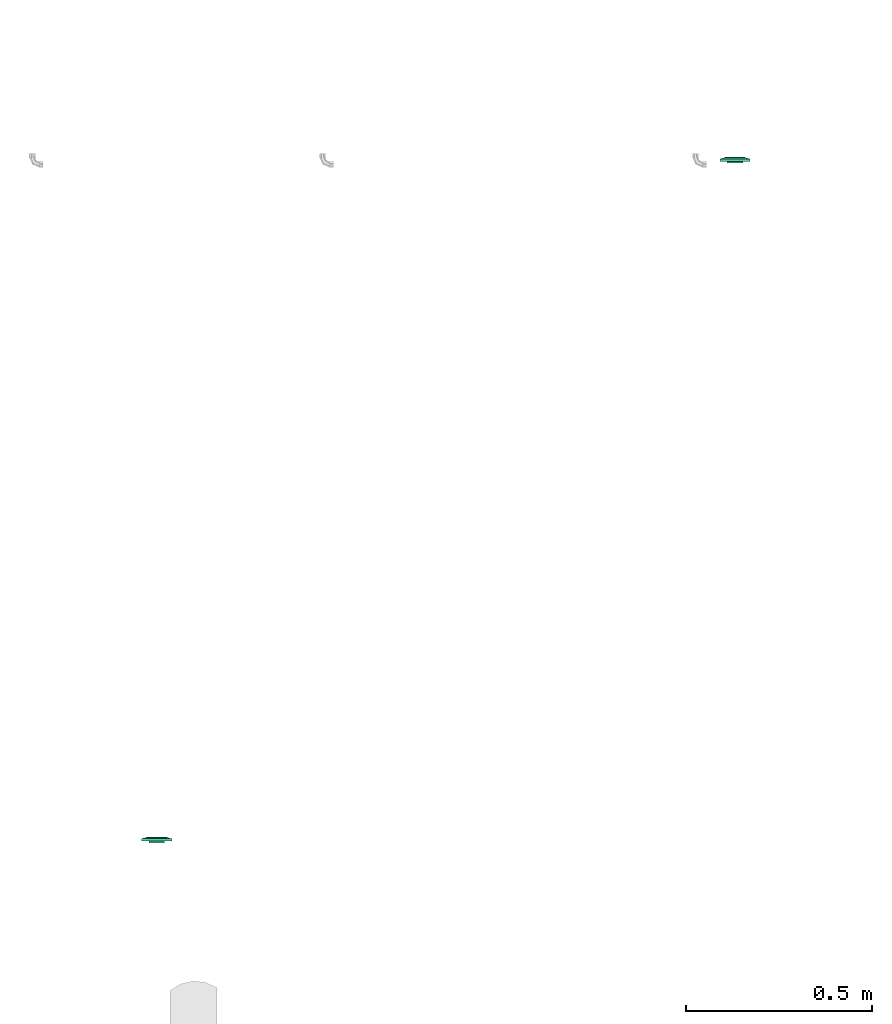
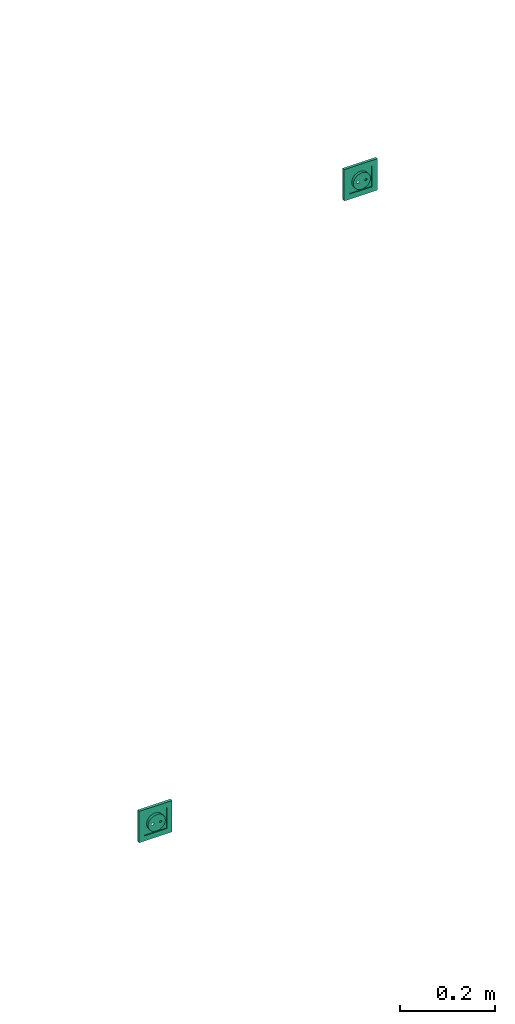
# One storey, part 102 of 153: 2 flow terminals.
"""IFC2X3 building model written with IfcOpenShell, lengths in metres."""

from ifc_helpers import new_model, entity, si_unit, converted_unit, derived_unit, direction, frame, origin, place, context, subcontext, project, spatial, face_set, surface_model, source, transform, mapped, type_object, type_shapes, element, save


model = new_model("IFC2X3")

# Units and contexts
model_context = context("Model", 3, precision=1e-05, world=origin(), true_north=direction((6.12303176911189e-17, 1.0)))
body_context = subcontext(model_context, "Body", "Model", "MODEL_VIEW")
ifc_project = project(units=[si_unit("LENGTHUNIT", "METRE"), si_unit("AREAUNIT", "SQUARE_METRE"), si_unit("VOLUMEUNIT", "CUBIC_METRE"), converted_unit("PLANEANGLEUNIT", "DEGREE", entity("IfcRatioMeasure", 0.0174532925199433), si_unit("PLANEANGLEUNIT", "RADIAN"), dimensions=[0, 0, 0, 0, 0, 0, 0]), si_unit("MASSUNIT", "GRAM", prefix="KILO"), derived_unit("MASSDENSITYUNIT", [(si_unit("MASSUNIT", "GRAM", prefix="KILO"), 1), (si_unit("LENGTHUNIT", "METRE"), -3)]), si_unit("TIMEUNIT", "SECOND"), si_unit("FREQUENCYUNIT", "HERTZ"), si_unit("THERMODYNAMICTEMPERATUREUNIT", "DEGREE_CELSIUS"), derived_unit("THERMALTRANSMITTANCEUNIT", [(si_unit("MASSUNIT", "GRAM", prefix="KILO"), 1), (si_unit("THERMODYNAMICTEMPERATUREUNIT", "KELVIN"), -1), (si_unit("TIMEUNIT", "SECOND"), -3)]), derived_unit("VOLUMETRICFLOWRATEUNIT", [(si_unit("LENGTHUNIT", "METRE"), 3), (si_unit("TIMEUNIT", "SECOND"), -1)]), si_unit("ELECTRICCURRENTUNIT", "AMPERE"), si_unit("ELECTRICVOLTAGEUNIT", "VOLT"), si_unit("POWERUNIT", "WATT"), si_unit("FORCEUNIT", "NEWTON"), si_unit("ILLUMINANCEUNIT", "LUX"), si_unit("LUMINOUSFLUXUNIT", "LUMEN"), si_unit("LUMINOUSINTENSITYUNIT", "CANDELA"), derived_unit("USERDEFINED", [(si_unit("MASSUNIT", "GRAM", prefix="KILO"), -1), (si_unit("LENGTHUNIT", "METRE"), -2), (si_unit("TIMEUNIT", "SECOND"), 3), (si_unit("LUMINOUSFLUXUNIT", "LUMEN"), 1)]), derived_unit("LINEARVELOCITYUNIT", [(si_unit("LENGTHUNIT", "METRE"), 1), (si_unit("TIMEUNIT", "SECOND"), -1)]), si_unit("PRESSUREUNIT", "PASCAL"), derived_unit("USERDEFINED", [(si_unit("LENGTHUNIT", "METRE"), -2), (si_unit("MASSUNIT", "GRAM", prefix="KILO"), 1), (si_unit("TIMEUNIT", "SECOND"), -2)])], contexts=[model_context])

# Site, building, storey
site_placement = place(None, origin())
site = spatial("IfcSite", under=ifc_project, at=site_placement, Name="Default", CompositionType="ELEMENT")
building_placement = place(site_placement, origin())
building = spatial("IfcBuilding", under=site, at=building_placement, CompositionType="ELEMENT")
storey_placement = place(building_placement, frame((0.0, 0.0, -4.62)))
storey = spatial("IfcBuildingStorey", under=building, at=storey_placement, Name="S02", CompositionType="ELEMENT", Elevation=-4.62)

# Flow terminals
light_fixture_type = type_object("IfcLightFixtureType", Name="Attente", PredefinedType="NOTDEFINED")
shared_shape = source(origin(), body_context, "Body", "SurfaceModel", [
    surface_model("IfcFaceBasedSurfaceModel", [(0.00225000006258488, 0.00949633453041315, 0.0127499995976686), (0.0, 0.00949633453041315, 0.0104999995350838), (0.0, 0.0101656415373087, 0.0115376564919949), (0.0, 0.0101656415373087, 0.0139623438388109), (0.0, 0.00984531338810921, 0.0144589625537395), (0.0, 0.0102778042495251, 0.0121178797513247), (0.0, 0.0102778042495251, 0.0133821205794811), (0.0, 0.010399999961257, 0.0127499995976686), (0.0, 0.00949633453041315, 0.0149999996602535), (-0.00225000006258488, 0.00949633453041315, 0.0127499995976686), (0.0, 0.00984531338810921, 0.0110410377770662), (0.0, 0.00949633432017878, 0.0127499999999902), (-0.0022499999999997, 0.0094963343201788, 0.0127499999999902), (-0.00217333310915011, 0.00949633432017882, 0.0121676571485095), (-0.0019485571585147, 0.00949633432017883, 0.0116249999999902), (-0.00159099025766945, 0.00949633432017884, 0.0111590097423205), (-0.00112499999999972, 0.00949633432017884, 0.0108014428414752), (-0.000582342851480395, 0.00949633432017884, 0.0105766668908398), (0.0, 0.00949633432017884, 0.0104999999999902), (0.000582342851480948, 0.00949633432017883, 0.0105766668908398), (0.00112500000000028, 0.00949633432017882, 0.0108014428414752), (0.00159099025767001, 0.00949633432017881, 0.0111590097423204), (0.00194855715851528, 0.00949633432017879, 0.0116249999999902), (0.0021733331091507, 0.00949633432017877, 0.0121676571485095), (0.0022500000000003, 0.00949633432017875, 0.0127499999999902), (0.00217333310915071, 0.00949633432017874, 0.0133323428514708), (0.0019485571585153, 0.00949633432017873, 0.0138749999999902), (0.00159099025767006, 0.00949633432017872, 0.0143409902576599), (0.00112500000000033, 0.00949633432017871, 0.0146985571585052), (0.000582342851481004, 0.00949633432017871, 0.0149233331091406), (0.0, 0.00949633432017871, 0.0149999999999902), (-0.000582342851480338, 0.00949633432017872, 0.0149233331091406), (-0.00112499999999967, 0.00949633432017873, 0.0146985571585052), (-0.00159099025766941, 0.00949633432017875, 0.0143409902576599), (-0.00194855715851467, 0.00949633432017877, 0.0138749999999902), (-0.00217333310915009, 0.00949633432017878, 0.0133323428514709), (-0.00224999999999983, -0.00360000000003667, 0.0127499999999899), (-0.00217333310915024, -0.00360000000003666, 0.0121676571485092), (-0.00194855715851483, -0.00360000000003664, 0.0116249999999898), (-0.00159099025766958, -0.00360000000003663, 0.0111590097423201), (-0.00112499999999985, -0.00360000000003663, 0.0108014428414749), (-0.000582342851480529, -0.00360000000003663, 0.0105766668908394), (0.0, -0.00360000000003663, 0.0104999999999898), (0.000582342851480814, -0.00360000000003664, 0.0105766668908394), (0.00112500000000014, -0.00360000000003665, 0.0108014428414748), (0.00159099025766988, -0.00360000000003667, 0.0111590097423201), (0.00194855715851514, -0.00360000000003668, 0.0116249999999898), (0.00217333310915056, -0.0036000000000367, 0.0121676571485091), (0.00225000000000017, -0.00360000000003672, 0.0127499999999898), (0.00217333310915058, -0.00360000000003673, 0.0133323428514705), (0.00194855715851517, -0.00360000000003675, 0.0138749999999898), (0.00159099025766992, -0.00360000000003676, 0.0143409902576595), (0.00112500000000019, -0.00360000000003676, 0.0146985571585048), (0.00058234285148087, -0.00360000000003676, 0.0149233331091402), (0.0, -0.00360000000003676, 0.0149999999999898), (-0.000582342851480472, -0.00360000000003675, 0.0149233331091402), (-0.0011249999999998, -0.00360000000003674, 0.0146985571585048), (-0.00159099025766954, -0.00360000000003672, 0.0143409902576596), (-0.0019485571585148, -0.00360000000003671, 0.0138749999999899), (-0.00217333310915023, -0.00360000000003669, 0.0133323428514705), (-0.0270000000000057, 0.0113999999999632, 0.0269999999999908), (0.0269999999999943, 0.0113999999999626, 0.0269999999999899), (0.0269999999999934, 0.0113999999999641, -0.0270000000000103), (-0.0270000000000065, 0.0113999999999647, -0.0270000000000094), (0.0199999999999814, 0.0113999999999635, 0.0), (0.0193185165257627, 0.0113999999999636, -0.00517638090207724), (0.0173205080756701, 0.0113999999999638, -0.0100000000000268), (0.0141421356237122, 0.0113999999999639, -0.0141421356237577), (0.00999999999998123, 0.011399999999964, -0.0173205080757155), (0.00517638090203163, 0.0113999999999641, -0.019318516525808), (0.0, 0.0113999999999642, -0.0200000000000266), (-0.00517638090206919, 0.0113999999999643, -0.0193185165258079), (-0.0100000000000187, 0.0113999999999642, -0.0173205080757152), (-0.0141421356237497, 0.0113999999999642, -0.0141421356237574), (-0.0173205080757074, 0.0113999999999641, -0.0100000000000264), (-0.0193185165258, 0.011399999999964, -0.0051763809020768), (-0.0200000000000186, 0.0113999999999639, 0.0), (-0.0193185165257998, 0.0113999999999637, 0.00517638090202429), (-0.0173205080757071, 0.0113999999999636, 0.00999999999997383), (-0.0141421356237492, 0.0113999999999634, 0.0141421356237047), (-0.0100000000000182, 0.0113999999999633, 0.0173205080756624), (-0.00517638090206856, 0.0113999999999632, 0.0193185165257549), (0.0, 0.0113999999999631, 0.0199999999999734), (0.00517638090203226, 0.0113999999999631, 0.0193185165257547), (0.0099999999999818, 0.0113999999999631, 0.017320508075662), (0.0141421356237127, 0.0113999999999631, 0.0141421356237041), (0.0173205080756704, 0.0113999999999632, 0.00999999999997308), (0.0193185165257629, 0.0113999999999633, 0.00517638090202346), (-0.0270000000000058, 0.00199999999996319, 0.0269999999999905), (-0.0270000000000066, 0.00199999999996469, -0.0270000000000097), (0.0269999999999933, 0.00199999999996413, -0.0270000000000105), (0.0269999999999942, 0.00199999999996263, 0.0269999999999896), (-0.0210000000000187, 0.00199999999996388, 0.0), (-0.0202844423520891, 0.00199999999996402, -0.00543519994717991), (-0.0181865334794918, 0.00199999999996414, -0.0105000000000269), (-0.0148492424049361, 0.00199999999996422, -0.0148492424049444), (-0.0105000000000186, 0.00199999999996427, -0.0181865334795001), (-0.00543519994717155, 0.00199999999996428, -0.0202844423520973), (0.0, 0.00199999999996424, -0.0210000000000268), (0.00543519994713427, 0.00199999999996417, -0.0202844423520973), (0.0104999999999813, 0.00199999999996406, -0.0181865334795), (0.0148492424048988, 0.00199999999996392, -0.0148492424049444), (0.0181865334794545, 0.00199999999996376, -0.0105000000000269), (0.0202844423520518, 0.0019999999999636, -0.00543519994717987), (0.0209999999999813, 0.00199999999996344, 0.0), (0.0202844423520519, 0.0019999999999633, 0.0054351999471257), (0.0181865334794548, 0.00199999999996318, 0.0104999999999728), (0.0148492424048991, 0.00199999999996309, 0.0148492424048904), (0.0104999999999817, 0.00199999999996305, 0.0181865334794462), (0.00543519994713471, 0.00199999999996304, 0.0202844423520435), (0.0, 0.00199999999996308, 0.0209999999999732), (-0.00543519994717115, 0.00199999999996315, 0.0202844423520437), (-0.0105000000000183, 0.00199999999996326, 0.0181865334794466), (-0.0148492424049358, 0.0019999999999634, 0.014849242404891), (-0.0181865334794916, 0.00199999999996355, 0.0104999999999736), (-0.020284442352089, 0.00199999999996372, 0.00543519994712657), (-0.0200000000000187, -0.00360000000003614, 0.0), (-0.0193185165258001, -0.003600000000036, -0.00517638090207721), (-0.0173205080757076, -0.00360000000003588, -0.0100000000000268), (-0.0141421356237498, -0.0036000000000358, -0.0141421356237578), (-0.0100000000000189, -0.00360000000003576, -0.0173205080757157), (-0.00517638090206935, -0.00360000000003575, -0.0193185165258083), (0.0, -0.00360000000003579, -0.020000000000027), (0.00517638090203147, -0.00360000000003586, -0.0193185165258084), (0.00999999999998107, -0.00360000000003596, -0.0173205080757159), (0.0141421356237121, -0.00360000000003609, -0.0141421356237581), (0.0173205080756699, -0.00360000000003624, -0.0100000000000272), (0.0193185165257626, -0.0036000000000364, -0.00517638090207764), (0.0199999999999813, -0.00360000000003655, 0.0), (0.0193185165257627, -0.00360000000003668, 0.00517638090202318), (0.0173205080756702, -0.0036000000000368, 0.00999999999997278), (0.0141421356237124, -0.00360000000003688, 0.0141421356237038), (0.00999999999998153, -0.00360000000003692, 0.0173205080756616), (0.00517638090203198, -0.00360000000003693, 0.0193185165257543), (0.0, -0.0036000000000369, 0.019999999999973), (-0.00517638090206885, -0.00360000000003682, 0.0193185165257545), (-0.0100000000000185, -0.00360000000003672, 0.0173205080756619), (-0.0141421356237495, -0.00360000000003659, 0.0141421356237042), (-0.0173205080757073, -0.00360000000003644, 0.00999999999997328), (-0.0193185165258, -0.00360000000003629, 0.00517638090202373), (0.0123499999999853, -0.00360000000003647, 0.0), (0.0122562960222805, -0.00360000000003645, -0.000711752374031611), (0.0119815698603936, -0.00360000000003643, -0.00137499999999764), (0.0115445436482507, -0.00360000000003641, -0.00194454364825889), (0.0109749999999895, -0.00360000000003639, -0.00238156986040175), (0.0103117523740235, -0.00360000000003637, -0.00265629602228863), (0.00959999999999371, -0.00360000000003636, -0.00274999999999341), (0.00888824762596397, -0.00360000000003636, -0.00265629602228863), (0.00822499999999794, -0.00360000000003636, -0.00238156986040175), (0.00765545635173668, -0.00360000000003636, -0.00194454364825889), (0.00721843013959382, -0.00360000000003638, -0.00137499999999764), (0.00694370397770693, -0.00360000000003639, -0.000711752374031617), (0.00685000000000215, -0.00360000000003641, 0.0), (0.00694370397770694, -0.00360000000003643, 0.000711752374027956), (0.00721843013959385, -0.00360000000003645, 0.00137499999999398), (0.00765545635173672, -0.00360000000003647, 0.00194454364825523), (0.00822499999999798, -0.00360000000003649, 0.00238156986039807), (0.00888824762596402, -0.00360000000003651, 0.00265629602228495), (0.00959999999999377, -0.00360000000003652, 0.0027499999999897), (0.0103117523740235, -0.00360000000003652, 0.00265629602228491), (0.0109749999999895, -0.00360000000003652, 0.00238156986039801), (0.0115445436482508, -0.00360000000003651, 0.00194454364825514), (0.0119815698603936, -0.0036000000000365, 0.00137499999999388), (0.0122562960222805, -0.00360000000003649, 0.000711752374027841), (-0.00685000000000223, -0.00360000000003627, 0.0), (-0.00694370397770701, -0.00360000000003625, -0.000711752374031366), (-0.0072184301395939, -0.00360000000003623, -0.00137499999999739), (-0.00765545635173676, -0.00360000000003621, -0.00194454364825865), (-0.00822499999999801, -0.00360000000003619, -0.0023815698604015), (-0.00888824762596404, -0.00360000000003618, -0.00265629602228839), (-0.00959999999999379, -0.00360000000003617, -0.00274999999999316), (-0.0103117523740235, -0.00360000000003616, -0.00265629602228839), (-0.0109749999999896, -0.00360000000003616, -0.00238156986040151), (-0.0115445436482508, -0.00360000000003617, -0.00194454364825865), (-0.0119815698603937, -0.00360000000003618, -0.0013749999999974), (-0.0122562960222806, -0.0036000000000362, -0.000711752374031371), (-0.0123499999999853, -0.00360000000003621, 0.0), (-0.0122562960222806, -0.00360000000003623, 0.000711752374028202), (-0.0119815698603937, -0.00360000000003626, 0.00137499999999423), (-0.0115445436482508, -0.00360000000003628, 0.00194454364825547), (-0.0109749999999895, -0.00360000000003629, 0.00238156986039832), (-0.0103117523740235, -0.00360000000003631, 0.00265629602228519), (-0.00959999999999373, -0.00360000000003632, 0.00274999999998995), (-0.00888824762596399, -0.00360000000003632, 0.00265629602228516), (-0.00822499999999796, -0.00360000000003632, 0.00238156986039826), (-0.00765545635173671, -0.00360000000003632, 0.00194454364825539), (-0.00721843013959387, -0.0036000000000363, 0.00137499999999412), (-0.00694370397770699, -0.00360000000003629, 0.000711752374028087), (-0.0210000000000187, -0.00460000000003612, 0.0), (-0.0202844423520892, -0.00460000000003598, -0.00543519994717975), (-0.018186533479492, -0.00460000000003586, -0.0105000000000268), (-0.0148492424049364, -0.00460000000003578, -0.0148492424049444), (-0.0105000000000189, -0.00460000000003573, -0.0181865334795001), (-0.00543519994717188, -0.00460000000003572, -0.0202844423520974), (0.0, -0.00460000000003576, -0.021000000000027), (0.00543519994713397, -0.00460000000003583, -0.0202844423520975), (0.0104999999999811, -0.00460000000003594, -0.0181865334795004), (0.0148492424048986, -0.00460000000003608, -0.0148492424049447), (0.0181865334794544, -0.00460000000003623, -0.0105000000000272), (0.0202844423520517, -0.0046000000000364, -0.0054351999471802), (0.0209999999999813, -0.00460000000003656, 0.0), (0.0202844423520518, -0.0046000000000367, 0.00543519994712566), (0.0181865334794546, -0.00460000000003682, 0.0104999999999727), (0.014849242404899, -0.00460000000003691, 0.0148492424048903), (0.0104999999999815, -0.00460000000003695, 0.0181865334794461), (0.0054351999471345, -0.00460000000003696, 0.0202844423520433), (0.0, -0.00460000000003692, 0.020999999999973), (-0.00543519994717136, -0.00460000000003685, 0.0202844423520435), (-0.0105000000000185, -0.00460000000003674, 0.0181865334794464), (-0.014849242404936, -0.0046000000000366, 0.0148492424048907), (-0.0181865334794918, -0.00460000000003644, 0.0104999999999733), (-0.0202844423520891, -0.00460000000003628, 0.00543519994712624), (0.00685000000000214, -0.00460000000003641, 0.0), (0.00694370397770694, -0.00460000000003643, 0.000711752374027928), (0.00721843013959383, -0.00460000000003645, 0.00137499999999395), (0.0076554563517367, -0.00460000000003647, 0.0019445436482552), (0.00822499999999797, -0.00460000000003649, 0.00238156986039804), (0.00888824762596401, -0.0046000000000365, 0.00265629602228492), (0.00959999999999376, -0.00460000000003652, 0.00274999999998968), (0.0103117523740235, -0.00460000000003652, 0.00265629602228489), (0.0109749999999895, -0.00460000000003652, 0.00238156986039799), (0.0115445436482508, -0.00460000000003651, 0.00194454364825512), (0.0119815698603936, -0.0046000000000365, 0.00137499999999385), (0.0122562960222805, -0.00460000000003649, 0.000711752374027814), (0.0123499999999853, -0.00460000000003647, 0.0), (0.0122562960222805, -0.00460000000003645, -0.00071175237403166), (0.0119815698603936, -0.00460000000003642, -0.00137499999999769), (0.0115445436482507, -0.0046000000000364, -0.00194454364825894), (0.0109749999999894, -0.00460000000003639, -0.00238156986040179), (0.0103117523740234, -0.00460000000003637, -0.00265629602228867), (0.00959999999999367, -0.00460000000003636, -0.00274999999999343), (0.00888824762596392, -0.00460000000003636, -0.00265629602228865), (0.00822499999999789, -0.00460000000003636, -0.00238156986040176), (0.00765545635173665, -0.00460000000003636, -0.00194454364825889), (0.00721843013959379, -0.00460000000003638, -0.00137499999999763), (0.00694370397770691, -0.00460000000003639, -0.0007117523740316), (-0.0123499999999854, -0.00460000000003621, 0.0), (-0.0122562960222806, -0.00460000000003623, 0.000711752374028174), (-0.0119815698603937, -0.00460000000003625, 0.0013749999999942), (-0.0115445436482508, -0.00460000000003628, 0.00194454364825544), (-0.0109749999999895, -0.00460000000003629, 0.00238156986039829), (-0.0103117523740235, -0.00460000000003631, 0.00265629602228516), (-0.00959999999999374, -0.00460000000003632, 0.00274999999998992), (-0.008888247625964, -0.00460000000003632, 0.00265629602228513), (-0.00822499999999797, -0.00460000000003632, 0.00238156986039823), (-0.00765545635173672, -0.00460000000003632, 0.00194454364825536), (-0.00721843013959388, -0.0046000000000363, 0.0013749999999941), (-0.006943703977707, -0.00460000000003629, 0.000711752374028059), (-0.00685000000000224, -0.00460000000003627, 0.0), (-0.00694370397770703, -0.00460000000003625, -0.000711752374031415), (-0.00721843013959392, -0.00460000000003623, -0.00137499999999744), (-0.00765545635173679, -0.00460000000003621, -0.00194454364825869), (-0.00822499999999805, -0.00460000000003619, -0.00238156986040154), (-0.00888824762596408, -0.00460000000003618, -0.00265629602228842), (-0.00959999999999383, -0.00460000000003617, -0.00274999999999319), (-0.0103117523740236, -0.00460000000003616, -0.00265629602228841), (-0.0109749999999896, -0.00460000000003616, -0.00238156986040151), (-0.0115445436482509, -0.00460000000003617, -0.00194454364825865), (-0.0119815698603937, -0.00460000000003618, -0.00137499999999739), (-0.0122562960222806, -0.00460000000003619, -0.000711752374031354), (-0.0403499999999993, 0.00659999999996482, 0.0403499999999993), (-0.0403500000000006, 0.00659999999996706, -0.0403500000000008), (0.0403499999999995, 0.00659999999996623, -0.0403500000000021), (0.0403500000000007, 0.00659999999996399, 0.040349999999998), (-0.0269999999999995, 0.00659999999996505, 0.026999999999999), (0.0270000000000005, 0.0065999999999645, 0.0269999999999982), (0.0269999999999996, 0.006599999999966, -0.0270000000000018), (-0.0270000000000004, 0.00659999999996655, -0.027000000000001), (-0.0269999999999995, 0.0103999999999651, 0.0269999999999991), (0.0270000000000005, 0.0103999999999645, 0.0269999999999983), (0.0269999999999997, 0.010399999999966, -0.0270000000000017), (-0.0270000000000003, 0.0103999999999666, -0.0270000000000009), (-0.0403499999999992, 0.00659999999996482, 0.0403499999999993), (-0.0403500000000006, 0.00659999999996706, -0.0403500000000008), (0.0403499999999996, 0.00659999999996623, -0.0403500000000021), (0.0403500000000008, 0.00659999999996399, 0.040349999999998), (0.0270000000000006, 0.0065999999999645, 0.0269999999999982), (0.0269999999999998, 0.006599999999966, -0.0270000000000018), (-0.0270000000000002, 0.00659999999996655, -0.027000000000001), (-0.0269999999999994, 0.00659999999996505, 0.026999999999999), (-0.0403499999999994, 0.0, 0.0403499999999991), (-0.0403500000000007, 0.0, -0.040350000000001), (0.0403499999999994, 0.0, -0.0403500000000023), (0.0403500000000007, 0.0, 0.0403499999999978), (-0.0269999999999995, 0.0, 0.0269999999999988), (0.0270000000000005, 0.0, 0.026999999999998), (0.0269999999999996, 0.0, -0.027000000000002), (-0.0270000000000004, 0.0, -0.0270000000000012)], [face_set([[[0, 1, 2]], [[3, 4, 2, 5]], [[6, 3, 5, 7]], [[2, 4, 0]], [[4, 8, 0]], [[3, 9, 8]], [[1, 9, 10]], [[2, 3, 6, 7]], [[3, 10, 9]], [[2, 10, 3]], [[11, 1, 0, 8]], [[11, 8, 9, 1]]]), face_set([[[12, 13, 14, 15, 16, 17, 18, 19, 20, 21, 22, 23, 24, 25, 26, 27, 28, 29, 30, 31, 32, 33, 34, 35]], [[36, 37, 38, 39, 40, 41, 42, 43, 44, 45, 46, 47, 48, 49, 50, 51, 52, 53, 54, 55, 56, 57, 58, 59]], [[48, 47, 23, 24]], [[47, 46, 22, 23]], [[45, 44, 20, 21]], [[46, 45, 21, 22]], [[44, 43, 19, 20]], [[18, 19, 43, 42]], [[42, 41, 17, 18]], [[41, 40, 16, 17]], [[39, 38, 14, 15]], [[40, 39, 15, 16]], [[38, 37, 13, 14]], [[12, 13, 37, 36]], [[36, 59, 35, 12]], [[59, 58, 34, 35]], [[57, 56, 32, 33]], [[58, 57, 33, 34]], [[56, 55, 31, 32]], [[30, 31, 55, 54]], [[54, 53, 29, 30]], [[53, 52, 28, 29]], [[51, 50, 26, 27]], [[52, 51, 27, 28]], [[50, 49, 25, 26]], [[24, 25, 49, 48]]]), face_set([[[60, 61, 62, 63], [64, 65, 66, 67, 68, 69, 70, 71, 72, 73, 74, 75, 76, 77, 78, 79, 80, 81, 82, 83, 84, 85, 86, 87]], [[88, 89, 90, 91], [92, 93, 94, 95, 96, 97, 98, 99, 100, 101, 102, 103, 104, 105, 106, 107, 108, 109, 110, 111, 112, 113, 114, 115]], [[61, 60, 88, 91]], [[62, 61, 91, 90]], [[63, 62, 90, 89]], [[60, 63, 89, 88]], [[116, 117, 118, 119, 120, 121, 122, 123, 124, 125, 126, 127, 128, 129, 130, 131, 132, 133, 134, 135, 136, 137, 138, 139], [140, 141, 142, 143, 144, 145, 146, 147, 148, 149, 150, 151, 152, 153, 154, 155, 156, 157, 158, 159, 160, 161, 162, 163], [164, 165, 166, 167, 168, 169, 170, 171, 172, 173, 174, 175, 176, 177, 178, 179, 180, 181, 182, 183, 184, 185, 186, 187]], [[64, 128, 127, 65]], [[65, 127, 126, 66]], [[67, 125, 124, 68]], [[66, 126, 125, 67]], [[68, 124, 123, 69]], [[122, 70, 69, 123]], [[70, 122, 121, 71]], [[71, 121, 120, 72]], [[73, 119, 118, 74]], [[72, 120, 119, 73]], [[74, 118, 117, 75]], [[116, 76, 75, 117]], [[76, 116, 139, 77]], [[77, 139, 138, 78]], [[79, 137, 136, 80]], [[78, 138, 137, 79]], [[80, 136, 135, 81]], [[134, 82, 81, 135]], [[82, 134, 133, 83]], [[83, 133, 132, 84]], [[84, 132, 131, 85]], [[85, 131, 130, 86]], [[130, 129, 87, 86]], [[64, 87, 129, 128]], [[188, 189, 190, 191, 192, 193, 194, 195, 196, 197, 198, 199, 200, 201, 202, 203, 204, 205, 206, 207, 208, 209, 210, 211], [212, 213, 214, 215, 216, 217, 218, 219, 220, 221, 222, 223, 224, 225, 226, 227, 228, 229, 230, 231, 232, 233, 234, 235], [236, 237, 238, 239, 240, 241, 242, 243, 244, 245, 246, 247, 248, 249, 250, 251, 252, 253, 254, 255, 256, 257, 258, 259]], [[200, 199, 103, 104]], [[199, 198, 102, 103]], [[197, 196, 100, 101]], [[198, 197, 101, 102]], [[196, 195, 99, 100]], [[98, 99, 195, 194]], [[194, 193, 97, 98]], [[193, 192, 96, 97]], [[191, 190, 94, 95]], [[192, 191, 95, 96]], [[190, 189, 93, 94]], [[92, 93, 189, 188]], [[188, 211, 115, 92]], [[211, 210, 114, 115]], [[209, 208, 112, 113]], [[210, 209, 113, 114]], [[208, 207, 111, 112]], [[110, 111, 207, 206]], [[206, 205, 109, 110]], [[205, 204, 108, 109]], [[203, 202, 106, 107]], [[204, 203, 107, 108]], [[202, 201, 105, 106]], [[104, 105, 201, 200]], [[141, 225, 226, 142]], [[140, 224, 225, 141]], [[144, 228, 229, 145]], [[143, 227, 228, 144]], [[142, 226, 227, 143]], [[230, 146, 145, 229]], [[149, 233, 232, 148]], [[148, 232, 231, 147]], [[152, 212, 235, 151]], [[151, 235, 234, 150]], [[150, 234, 233, 149]], [[146, 230, 231, 147]], [[154, 214, 213, 153]], [[153, 213, 212, 152]], [[157, 217, 216, 156]], [[156, 216, 215, 155]], [[155, 215, 214, 154]], [[218, 158, 157, 217]], [[160, 220, 221, 161]], [[159, 219, 220, 160]], [[163, 223, 224, 140]], [[162, 222, 223, 163]], [[161, 221, 222, 162]], [[158, 218, 219, 159]], [[166, 250, 249, 165]], [[165, 249, 248, 164]], [[169, 253, 252, 168]], [[168, 252, 251, 167]], [[167, 251, 250, 166]], [[254, 170, 169, 253]], [[172, 256, 257, 173]], [[171, 255, 256, 172]], [[175, 259, 236, 176]], [[174, 258, 259, 175]], [[173, 257, 258, 174]], [[170, 254, 255, 171]], [[177, 237, 238, 178]], [[176, 236, 237, 177]], [[180, 240, 241, 181]], [[179, 239, 240, 180]], [[178, 238, 239, 179]], [[242, 182, 181, 241]], [[185, 245, 244, 184]], [[184, 244, 243, 183]], [[164, 248, 247, 187]], [[187, 247, 246, 186]], [[186, 246, 245, 185]], [[182, 242, 243, 183]]]), face_set([[[260, 261, 262, 263], [264, 265, 266, 267]], [[260, 268, 269, 263]], [[263, 269, 270, 262]], [[262, 270, 271, 261]], [[261, 271, 268, 260]], [[264, 265, 269, 268]], [[265, 266, 270, 269]], [[266, 267, 271, 270]], [[268, 271, 267, 264]]]), face_set([[[272, 273, 274, 275], [276, 277, 278, 279]], [[280, 281, 282, 283], [284, 285, 286, 287]], [[275, 272, 280, 283]], [[274, 275, 283, 282]], [[273, 274, 282, 281]], [[272, 273, 281, 280]], [[284, 285, 276, 279]], [[285, 286, 277, 276]], [[286, 287, 278, 277]], [[279, 278, 287, 284]]])]),
])
type_shapes(light_fixture_type, [shared_shape])
for number, where, name in (
    (1, (48.3180467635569, -185.914720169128, 0.0), "INT_Attente électrique:Attente"),
    (2, (46.7658791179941, -187.73906182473, 0.0), "INT_Attente électrique:Attente"),
):
    element("IfcFlowTerminal", number, at=place(storey_placement, frame(where)), inside=storey, type_object=light_fixture_type, Name=name, ObjectType="INT_Attente électrique:Attente", context=body_context, shape_type="MappedRepresentation", body=[
        mapped(shared_shape, transform((0.0, 0.0, 0.0), scale=1.0)),
    ])

save(model, "model.ifc")
